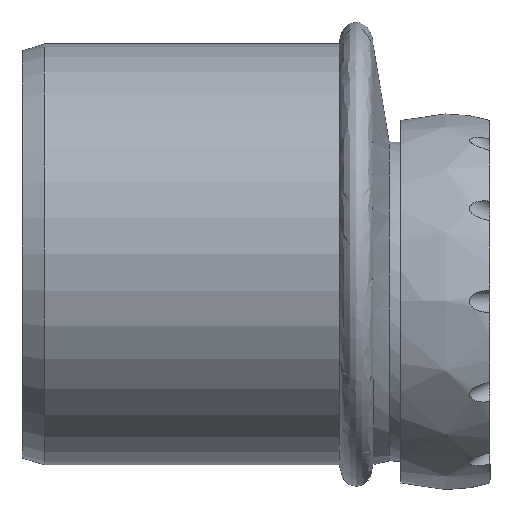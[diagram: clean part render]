
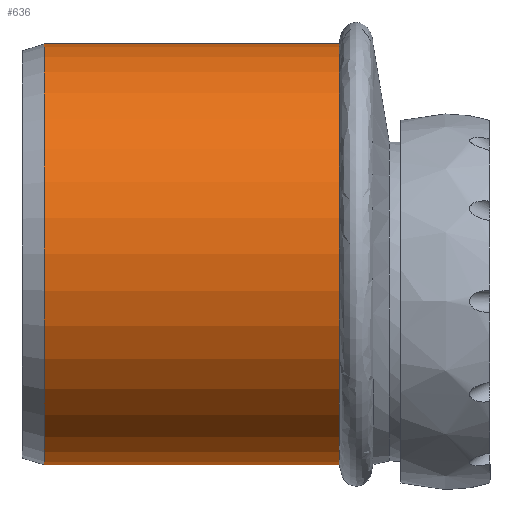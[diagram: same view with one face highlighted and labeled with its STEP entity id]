
A CAD part, top view. The second image highlights one B-rep face of the part: STEP entity #636.
In plain terms, the highlighted cylindrical face has radius 37.6 mm (diameter 75.2 mm), a full revolution.
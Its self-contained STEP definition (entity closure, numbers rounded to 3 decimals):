
#34=FACE_BOUND('',#191,.T.);
#59=CYLINDRICAL_SURFACE('',#721,37.6);
#96=CIRCLE('',#716,37.6);
#98=CIRCLE('',#720,37.6);
#151=FACE_OUTER_BOUND('',#190,.T.);
#190=EDGE_LOOP('',(#535));
#191=EDGE_LOOP('',(#536));
#291=VERTEX_POINT('',#1631);
#293=VERTEX_POINT('',#1638);
#377=EDGE_CURVE('',#291,#291,#96,.T.);
#379=EDGE_CURVE('',#293,#293,#98,.T.);
#535=ORIENTED_EDGE('',*,*,#377,.F.);
#536=ORIENTED_EDGE('',*,*,#379,.T.);
#636=ADVANCED_FACE('',(#151,#34),#59,.T.);
#716=AXIS2_PLACEMENT_3D('',#1633,#890,#891);
#720=AXIS2_PLACEMENT_3D('',#1639,#898,#899);
#721=AXIS2_PLACEMENT_3D('',#1640,#900,#901);
#890=DIRECTION('center_axis',(1.,0.,0.));
#891=DIRECTION('ref_axis',(0.,0.,-1.));
#898=DIRECTION('center_axis',(1.,0.,0.));
#899=DIRECTION('ref_axis',(0.,0.,-1.));
#900=DIRECTION('center_axis',(1.,0.,0.));
#901=DIRECTION('ref_axis',(0.,1.,0.));
#1631=CARTESIAN_POINT('',(56.7,46.05,0.));
#1633=CARTESIAN_POINT('Origin',(56.7,8.45,0.));
#1638=CARTESIAN_POINT('',(4.,46.05,0.));
#1639=CARTESIAN_POINT('Origin',(4.,8.45,0.));
#1640=CARTESIAN_POINT('Origin',(30.35,8.45,0.));
